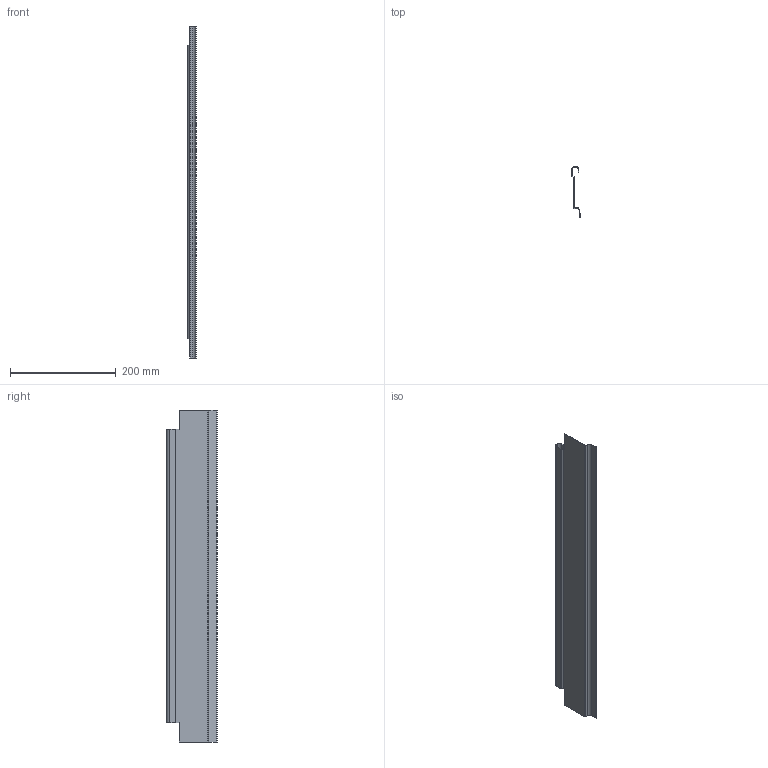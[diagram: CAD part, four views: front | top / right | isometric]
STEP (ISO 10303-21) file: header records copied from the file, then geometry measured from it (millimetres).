
FILE_DESCRIPTION (( 'STEP AP214' ), '1' );
FILE_NAME ('_Solowing NL660.step', '2010-07-14T13:32:00', ( 'grass' ), ( '' ), 'SwSTEP 2.0', 'SolidWorks 2010', '' );
FILE_SCHEMA (( 'AUTOMOTIVE_DESIGN' ));
Length unit declared in the file: millimetre
Products named in the file (1): _Solowing NL660
Bounding box: 16.3 x 96 x 628 mm (x, y, z)
Volume: 59661.8 mm3; surface area: 150357.4 mm2
Topology: 1 solids, 1 shells, 46 faces, 108 edges, 64 vertices
Faces by surface type: plane 36, cylinder 10
Entity records: 1314 total; most frequent: DIRECTION 222, CARTESIAN_POINT 219, ORIENTED_EDGE 216, EDGE_CURVE 108, LINE 88, VECTOR 88, AXIS2_PLACEMENT_3D 67, VERTEX_POINT 64
